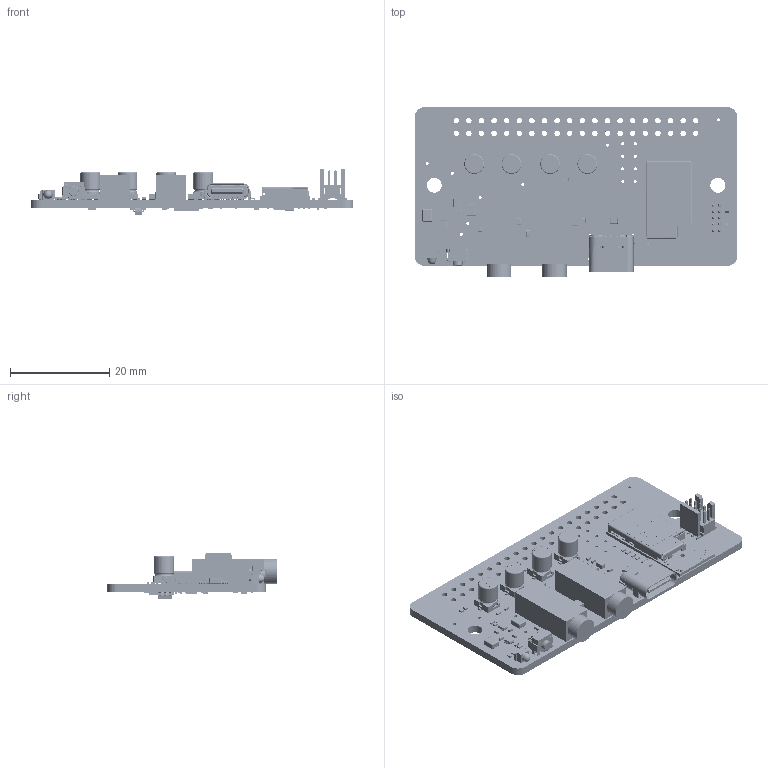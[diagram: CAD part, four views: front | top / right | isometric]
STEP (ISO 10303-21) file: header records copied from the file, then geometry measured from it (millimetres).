
FILE_DESCRIPTION(('Open CASCADE Model'),'2;1');
FILE_NAME('Open CASCADE Shape Model','2025-06-26T09:02:18',('Author'),( 'Open CASCADE'),'Open CASCADE STEP processor 7.5','Open CASCADE 7.5' ,'Unknown');
FILE_SCHEMA(('AUTOMOTIVE_DESIGN { 1 0 10303 214 1 1 1 1 }'));
Length unit declared in the file: millimetre
Products named in the file (179): PCB; Board; Open CASCADE STEP translator 7.5 1.1.1; Y1; Crys_Abracon_ABS06-32_768KHZ-1-T_eec; Body; LID; Termination; Logo; ESD5; VarVE_femtoF_0603; contacs; ceramic substrate; Over Coat; R40; 0402 resistor; R39; C27; 0402 cap; U4; 6507825248; ThermalPin; PinsArrayLR; PinsArrayTB; R27; C9; 4x5.5x1; capicitor_4x5.5x1; Base_Φ4Capacitor; C8; C7; C6; U1; 3D Model - BL5340PA, Integrated Antenna (453-00068); 940-00160; 750-03291_940-00160-SA; 110-00776; 160-02276_453-00068; 7302093184; Extruded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
Assembly tree (352 placements, depth 5):
  PCB
    Board
      Open CASCADE STEP translator 7.5 1.1.1
    Y1
      Crys_Abracon_ABS06-32_768KHZ-1-T_eec
        Body
        LID
        Termination
        Logo
    ESD5
      VarVE_femtoF_0603
        contacs
        ceramic substrate
        Over Coat
    R40
      0402 resistor
    R39
      0402 resistor
    C27
      0402 cap
    U4
      6507825248
        Body
        ThermalPin
        PinsArrayLR
        PinsArrayTB
    R27
      0402 resistor
    C9
      4x5.5x1
        capicitor_4x5.5x1
        Base_Φ4Capacitor
    C8
      4x5.5x1
        capicitor_4x5.5x1
        Base_Φ4Capacitor
    C7
      4x5.5x1
        capicitor_4x5.5x1
        Base_Φ4Capacitor
    C6
      4x5.5x1
        capicitor_4x5.5x1
        Base_Φ4Capacitor
    U1
      3D Model - BL5340PA, Integrated Antenna (453-00068)
        940-00160
          750-03291_940-00160-SA
          110-00776
        160-02276_453-00068
      7302093184  x14
        Extruded
      7302091984  x83
        Extruded
    U2
      6507825968
    R19
      0402 resistor
    U3
      IC_Texas_Instruments_SN65LVDT2DBVT_eec
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Bounding box: 65 x 34.19 x 9.2 mm (x, y, z)
Volume: 4985.7 mm3; surface area: 9839.1 mm2
Topology: 413 solids, 664 shells, 15617 faces, 40364 edges, 26121 vertices
Faces by surface type: plane 10252, cylinder 3151, bspline 1326, sphere 686, torus 106, extrusion 64, cone 32
Full cylindrical faces by diameter (mm): 0.119 x1, 0.147 x2, 0.155 x1, 0.5 x8, 0.58 x4, 0.6 x16, 0.625 x1, 0.65 x2, 0.9 x24, 0.98 x4, 1.1 x40, 1.5 x4, 1.6 x4, 2 x1, 2.1 x1, 2.42 x4, 2.5 x4, 2.8 x4, 3 x2, 3.56 x4, 3.6 x2, 3.9 x4, 4 x4, 5 x2
Entity records: 409113 total; most frequent: CARTESIAN_POINT 103114, ORIENTED_EDGE 52868, DIRECTION 48045, EDGE_CURVE 26435, VECTOR 19343, LINE 19327, VERTEX_POINT 17072, AXIS2_PLACEMENT_3D 14351
